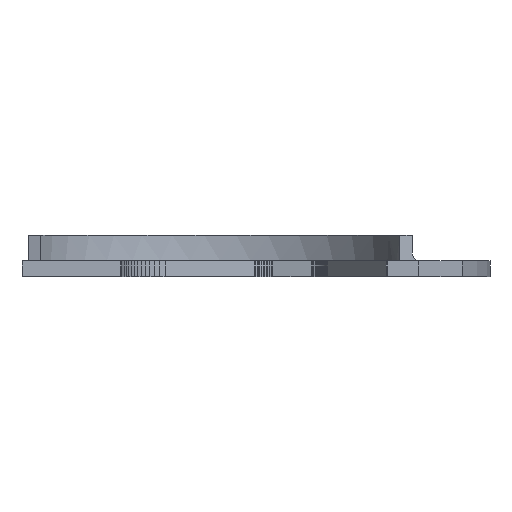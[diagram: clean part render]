
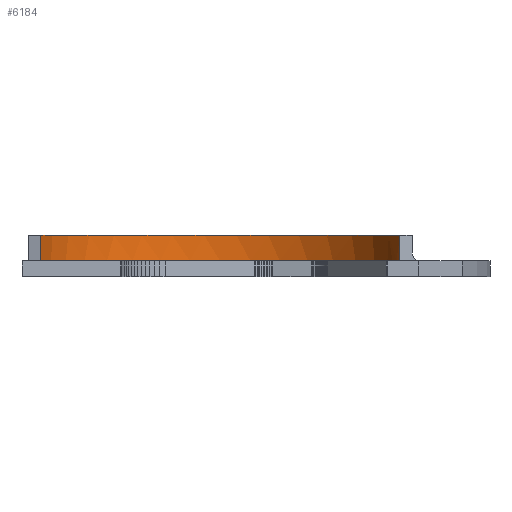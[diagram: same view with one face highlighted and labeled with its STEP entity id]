
A CAD part, front view. The second image highlights one B-rep face of the part: STEP entity #6184.
In plain terms, the highlighted cylindrical face has radius 23.5 mm (diameter 47 mm), a partial arc.
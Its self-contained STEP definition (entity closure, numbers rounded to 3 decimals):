
#32 = PLANE('',#33);
#33 = AXIS2_PLACEMENT_3D('',#34,#35,#36);
#34 = CARTESIAN_POINT('',(0.,0.,-46.2));
#35 = DIRECTION('',(0.,0.,1.));
#36 = DIRECTION('',(1.,0.,-0.));
#361 = VERTEX_POINT('',#362);
#362 = CARTESIAN_POINT('',(22.699,6.082,-46.2));
#376 = PLANE('',#377);
#377 = AXIS2_PLACEMENT_3D('',#378,#379,#380);
#378 = CARTESIAN_POINT('',(0.,0.,-47.4));
#379 = DIRECTION('',(-0.259,0.966,0.));
#380 = DIRECTION('',(0.966,0.259,0.));
#388 = EDGE_CURVE('',#361,#389,#391,.T.);
#389 = VERTEX_POINT('',#390);
#390 = CARTESIAN_POINT('',(21.122,10.302,-46.2));
#391 = SURFACE_CURVE('',#392,(#397,#404),.PCURVE_S1.);
#392 = CIRCLE('',#393,23.5);
#393 = AXIS2_PLACEMENT_3D('',#394,#395,#396);
#394 = CARTESIAN_POINT('',(0.,0.,-46.2));
#395 = DIRECTION('',(0.,0.,1.));
#396 = DIRECTION('',(1.,0.,-0.));
#397 = PCURVE('',#32,#398);
#398 = DEFINITIONAL_REPRESENTATION('',(#399),#403);
#399 = CIRCLE('',#400,23.5);
#400 = AXIS2_PLACEMENT_2D('',#401,#402);
#401 = CARTESIAN_POINT('',(0.,0.));
#402 = DIRECTION('',(1.,0.));
#403 = ( GEOMETRIC_REPRESENTATION_CONTEXT(2) 
PARAMETRIC_REPRESENTATION_CONTEXT() REPRESENTATION_CONTEXT('2D SPACE',''
  ) );
#404 = PCURVE('',#405,#410);
#405 = CYLINDRICAL_SURFACE('',#406,23.5);
#406 = AXIS2_PLACEMENT_3D('',#407,#408,#409);
#407 = CARTESIAN_POINT('',(0.,0.,-46.9));
#408 = DIRECTION('',(0.,0.,1.));
#409 = DIRECTION('',(1.,0.,0.));
#410 = DEFINITIONAL_REPRESENTATION('',(#411),#415);
#411 = LINE('',#412,#413);
#412 = CARTESIAN_POINT('',(0.,0.7));
#413 = VECTOR('',#414,1.);
#414 = DIRECTION('',(1.,0.));
#415 = ( GEOMETRIC_REPRESENTATION_CONTEXT(2) 
PARAMETRIC_REPRESENTATION_CONTEXT() REPRESENTATION_CONTEXT('2D SPACE',''
  ) );
#432 = PLANE('',#433);
#433 = AXIS2_PLACEMENT_3D('',#434,#435,#436);
#434 = CARTESIAN_POINT('',(0.,0.,-49.7));
#435 = DIRECTION('',(-0.438,0.899,0.));
#436 = DIRECTION('',(0.899,0.438,0.));
#473 = VERTEX_POINT('',#474);
#474 = CARTESIAN_POINT('',(19.482,13.141,-46.2));
#487 = PLANE('',#488);
#488 = AXIS2_PLACEMENT_3D('',#489,#490,#491);
#489 = CARTESIAN_POINT('',(20.005,13.494,-49.7));
#490 = DIRECTION('',(0.559,-0.829,0.));
#491 = DIRECTION('',(-0.829,-0.559,0.));
#498 = EDGE_CURVE('',#473,#499,#501,.T.);
#499 = VERTEX_POINT('',#500);
#500 = CARTESIAN_POINT('',(-22.699,6.082,-46.2));
#501 = SURFACE_CURVE('',#502,(#507,#514),.PCURVE_S1.);
#502 = CIRCLE('',#503,23.5);
#503 = AXIS2_PLACEMENT_3D('',#504,#505,#506);
#504 = CARTESIAN_POINT('',(0.,0.,-46.2));
#505 = DIRECTION('',(0.,0.,1.));
#506 = DIRECTION('',(1.,0.,-0.));
#507 = PCURVE('',#32,#508);
#508 = DEFINITIONAL_REPRESENTATION('',(#509),#513);
#509 = CIRCLE('',#510,23.5);
#510 = AXIS2_PLACEMENT_2D('',#511,#512);
#511 = CARTESIAN_POINT('',(0.,0.));
#512 = DIRECTION('',(1.,0.));
#513 = ( GEOMETRIC_REPRESENTATION_CONTEXT(2) 
PARAMETRIC_REPRESENTATION_CONTEXT() REPRESENTATION_CONTEXT('2D SPACE',''
  ) );
#514 = PCURVE('',#405,#515);
#515 = DEFINITIONAL_REPRESENTATION('',(#516),#520);
#516 = LINE('',#517,#518);
#517 = CARTESIAN_POINT('',(0.,0.7));
#518 = VECTOR('',#519,1.);
#519 = DIRECTION('',(1.,0.));
#520 = ( GEOMETRIC_REPRESENTATION_CONTEXT(2) 
PARAMETRIC_REPRESENTATION_CONTEXT() REPRESENTATION_CONTEXT('2D SPACE',''
  ) );
#537 = PLANE('',#538);
#538 = AXIS2_PLACEMENT_3D('',#539,#540,#541);
#539 = CARTESIAN_POINT('',(-24.943,6.683,-47.4));
#540 = DIRECTION('',(0.259,0.966,-0.));
#541 = DIRECTION('',(0.966,-0.259,0.));
#3937 = PLANE('',#3938);
#3938 = AXIS2_PLACEMENT_3D('',#3939,#3940,#3941);
#3939 = CARTESIAN_POINT('',(0.,0.,-46.4));
#3940 = DIRECTION('',(0.,0.,1.));
#3941 = DIRECTION('',(1.,0.,0.));
#3991 = EDGE_CURVE('',#3992,#3994,#3996,.T.);
#3992 = VERTEX_POINT('',#3993);
#3993 = CARTESIAN_POINT('',(21.122,10.302,-46.4));
#3994 = VERTEX_POINT('',#3995);
#3995 = CARTESIAN_POINT('',(19.482,13.141,-46.4));
#3996 = SURFACE_CURVE('',#3997,(#4002,#4009),.PCURVE_S1.);
#3997 = CIRCLE('',#3998,23.5);
#3998 = AXIS2_PLACEMENT_3D('',#3999,#4000,#4001);
#3999 = CARTESIAN_POINT('',(0.,0.,-46.4));
#4000 = DIRECTION('',(0.,0.,1.));
#4001 = DIRECTION('',(1.,0.,-0.));
#4002 = PCURVE('',#3937,#4003);
#4003 = DEFINITIONAL_REPRESENTATION('',(#4004),#4008);
#4004 = CIRCLE('',#4005,23.5);
#4005 = AXIS2_PLACEMENT_2D('',#4006,#4007);
#4006 = CARTESIAN_POINT('',(0.,0.));
#4007 = DIRECTION('',(1.,0.));
#4008 = ( GEOMETRIC_REPRESENTATION_CONTEXT(2) 
PARAMETRIC_REPRESENTATION_CONTEXT() REPRESENTATION_CONTEXT('2D SPACE',''
  ) );
#4009 = PCURVE('',#405,#4010);
#4010 = DEFINITIONAL_REPRESENTATION('',(#4011),#4015);
#4011 = LINE('',#4012,#4013);
#4012 = CARTESIAN_POINT('',(0.,0.5));
#4013 = VECTOR('',#4014,1.);
#4014 = DIRECTION('',(1.,0.));
#4015 = ( GEOMETRIC_REPRESENTATION_CONTEXT(2) 
PARAMETRIC_REPRESENTATION_CONTEXT() REPRESENTATION_CONTEXT('2D SPACE',''
  ) );
#5763 = PLANE('',#5764);
#5764 = AXIS2_PLACEMENT_3D('',#5765,#5766,#5767);
#5765 = CARTESIAN_POINT('',(0.,0.,-43.));
#5766 = DIRECTION('',(0.,0.,1.));
#5767 = DIRECTION('',(1.,0.,0.));
#5998 = VERTEX_POINT('',#5999);
#5999 = CARTESIAN_POINT('',(22.699,6.082,-43.));
#6021 = VERTEX_POINT('',#6022);
#6022 = CARTESIAN_POINT('',(-22.699,6.082,-43.));
#6041 = EDGE_CURVE('',#5998,#6021,#6042,.T.);
#6042 = SURFACE_CURVE('',#6043,(#6048,#6055),.PCURVE_S1.);
#6043 = CIRCLE('',#6044,23.5);
#6044 = AXIS2_PLACEMENT_3D('',#6045,#6046,#6047);
#6045 = CARTESIAN_POINT('',(0.,0.,-43.));
#6046 = DIRECTION('',(0.,0.,1.));
#6047 = DIRECTION('',(1.,0.,-0.));
#6048 = PCURVE('',#5763,#6049);
#6049 = DEFINITIONAL_REPRESENTATION('',(#6050),#6054);
#6050 = CIRCLE('',#6051,23.5);
#6051 = AXIS2_PLACEMENT_2D('',#6052,#6053);
#6052 = CARTESIAN_POINT('',(0.,0.));
#6053 = DIRECTION('',(1.,0.));
#6054 = ( GEOMETRIC_REPRESENTATION_CONTEXT(2) 
PARAMETRIC_REPRESENTATION_CONTEXT() REPRESENTATION_CONTEXT('2D SPACE',''
  ) );
#6055 = PCURVE('',#405,#6056);
#6056 = DEFINITIONAL_REPRESENTATION('',(#6057),#6061);
#6057 = LINE('',#6058,#6059);
#6058 = CARTESIAN_POINT('',(0.,3.9));
#6059 = VECTOR('',#6060,1.);
#6060 = DIRECTION('',(1.,0.));
#6061 = ( GEOMETRIC_REPRESENTATION_CONTEXT(2) 
PARAMETRIC_REPRESENTATION_CONTEXT() REPRESENTATION_CONTEXT('2D SPACE',''
  ) );
#6066 = EDGE_CURVE('',#499,#6021,#6067,.T.);
#6067 = SURFACE_CURVE('',#6068,(#6072,#6078),.PCURVE_S1.);
#6068 = LINE('',#6069,#6070);
#6069 = CARTESIAN_POINT('',(-22.699,6.082,-46.9));
#6070 = VECTOR('',#6071,1.);
#6071 = DIRECTION('',(0.,0.,1.));
#6072 = PCURVE('',#537,#6073);
#6073 = DEFINITIONAL_REPRESENTATION('',(#6074),#6077);
#6074 = B_SPLINE_CURVE_WITH_KNOTS('',1,(#6075,#6076),.UNSPECIFIED.,.F.,
  .F.,(2,2),(0.5,3.9),.PIECEWISE_BEZIER_KNOTS.);
#6075 = CARTESIAN_POINT('',(2.323,-1.));
#6076 = CARTESIAN_POINT('',(2.323,-4.4));
#6077 = ( GEOMETRIC_REPRESENTATION_CONTEXT(2) 
PARAMETRIC_REPRESENTATION_CONTEXT() REPRESENTATION_CONTEXT('2D SPACE',''
  ) );
#6078 = PCURVE('',#405,#6079);
#6079 = DEFINITIONAL_REPRESENTATION('',(#6080),#6083);
#6080 = B_SPLINE_CURVE_WITH_KNOTS('',1,(#6081,#6082),.UNSPECIFIED.,.F.,
  .F.,(2,2),(0.5,3.9),.PIECEWISE_BEZIER_KNOTS.);
#6081 = CARTESIAN_POINT('',(2.88,0.5));
#6082 = CARTESIAN_POINT('',(2.88,3.9));
#6083 = ( GEOMETRIC_REPRESENTATION_CONTEXT(2) 
PARAMETRIC_REPRESENTATION_CONTEXT() REPRESENTATION_CONTEXT('2D SPACE',''
  ) );
#6113 = EDGE_CURVE('',#3994,#473,#6114,.T.);
#6114 = SURFACE_CURVE('',#6115,(#6119,#6125),.PCURVE_S1.);
#6115 = LINE('',#6116,#6117);
#6116 = CARTESIAN_POINT('',(19.482,13.141,-46.9));
#6117 = VECTOR('',#6118,1.);
#6118 = DIRECTION('',(0.,0.,1.));
#6119 = PCURVE('',#487,#6120);
#6120 = DEFINITIONAL_REPRESENTATION('',(#6121),#6124);
#6121 = B_SPLINE_CURVE_WITH_KNOTS('',1,(#6122,#6123),.UNSPECIFIED.,.F.,
  .F.,(2,2),(0.5,0.9),.PIECEWISE_BEZIER_KNOTS.);
#6122 = CARTESIAN_POINT('',(0.631,-3.3));
#6123 = CARTESIAN_POINT('',(0.631,-3.7));
#6124 = ( GEOMETRIC_REPRESENTATION_CONTEXT(2) 
PARAMETRIC_REPRESENTATION_CONTEXT() REPRESENTATION_CONTEXT('2D SPACE',''
  ) );
#6125 = PCURVE('',#405,#6126);
#6126 = DEFINITIONAL_REPRESENTATION('',(#6127),#6130);
#6127 = B_SPLINE_CURVE_WITH_KNOTS('',1,(#6128,#6129),.UNSPECIFIED.,.F.,
  .F.,(2,2),(0.5,0.9),.PIECEWISE_BEZIER_KNOTS.);
#6128 = CARTESIAN_POINT('',(0.593,0.5));
#6129 = CARTESIAN_POINT('',(0.593,0.9));
#6130 = ( GEOMETRIC_REPRESENTATION_CONTEXT(2) 
PARAMETRIC_REPRESENTATION_CONTEXT() REPRESENTATION_CONTEXT('2D SPACE',''
  ) );
#6165 = EDGE_CURVE('',#3992,#389,#6166,.T.);
#6166 = SURFACE_CURVE('',#6167,(#6171,#6177),.PCURVE_S1.);
#6167 = LINE('',#6168,#6169);
#6168 = CARTESIAN_POINT('',(21.122,10.302,-46.9));
#6169 = VECTOR('',#6170,1.);
#6170 = DIRECTION('',(0.,0.,1.));
#6171 = PCURVE('',#432,#6172);
#6172 = DEFINITIONAL_REPRESENTATION('',(#6173),#6176);
#6173 = B_SPLINE_CURVE_WITH_KNOTS('',1,(#6174,#6175),.UNSPECIFIED.,.F.,
  .F.,(2,2),(0.5,0.9),.PIECEWISE_BEZIER_KNOTS.);
#6174 = CARTESIAN_POINT('',(23.5,-3.3));
#6175 = CARTESIAN_POINT('',(23.5,-3.7));
#6176 = ( GEOMETRIC_REPRESENTATION_CONTEXT(2) 
PARAMETRIC_REPRESENTATION_CONTEXT() REPRESENTATION_CONTEXT('2D SPACE',''
  ) );
#6177 = PCURVE('',#405,#6178);
#6178 = DEFINITIONAL_REPRESENTATION('',(#6179),#6182);
#6179 = B_SPLINE_CURVE_WITH_KNOTS('',1,(#6180,#6181),.UNSPECIFIED.,.F.,
  .F.,(2,2),(0.5,0.9),.PIECEWISE_BEZIER_KNOTS.);
#6180 = CARTESIAN_POINT('',(0.454,0.5));
#6181 = CARTESIAN_POINT('',(0.454,0.9));
#6182 = ( GEOMETRIC_REPRESENTATION_CONTEXT(2) 
PARAMETRIC_REPRESENTATION_CONTEXT() REPRESENTATION_CONTEXT('2D SPACE',''
  ) );
#6184 = ADVANCED_FACE('',(#6185),#405,.F.);
#6185 = FACE_BOUND('',#6186,.F.);
#6186 = EDGE_LOOP('',(#6187,#6188,#6208,#6209,#6210,#6211,#6212,#6213));
#6187 = ORIENTED_EDGE('',*,*,#6041,.F.);
#6188 = ORIENTED_EDGE('',*,*,#6189,.F.);
#6189 = EDGE_CURVE('',#361,#5998,#6190,.T.);
#6190 = SURFACE_CURVE('',#6191,(#6195,#6201),.PCURVE_S1.);
#6191 = LINE('',#6192,#6193);
#6192 = CARTESIAN_POINT('',(22.699,6.082,-46.9));
#6193 = VECTOR('',#6194,1.);
#6194 = DIRECTION('',(0.,0.,1.));
#6195 = PCURVE('',#405,#6196);
#6196 = DEFINITIONAL_REPRESENTATION('',(#6197),#6200);
#6197 = B_SPLINE_CURVE_WITH_KNOTS('',1,(#6198,#6199),.UNSPECIFIED.,.F.,
  .F.,(2,2),(0.5,3.9),.PIECEWISE_BEZIER_KNOTS.);
#6198 = CARTESIAN_POINT('',(0.262,0.5));
#6199 = CARTESIAN_POINT('',(0.262,3.9));
#6200 = ( GEOMETRIC_REPRESENTATION_CONTEXT(2) 
PARAMETRIC_REPRESENTATION_CONTEXT() REPRESENTATION_CONTEXT('2D SPACE',''
  ) );
#6201 = PCURVE('',#376,#6202);
#6202 = DEFINITIONAL_REPRESENTATION('',(#6203),#6207);
#6203 = LINE('',#6204,#6205);
#6204 = CARTESIAN_POINT('',(23.5,-0.5));
#6205 = VECTOR('',#6206,1.);
#6206 = DIRECTION('',(0.,-1.));
#6207 = ( GEOMETRIC_REPRESENTATION_CONTEXT(2) 
PARAMETRIC_REPRESENTATION_CONTEXT() REPRESENTATION_CONTEXT('2D SPACE',''
  ) );
#6208 = ORIENTED_EDGE('',*,*,#388,.T.);
#6209 = ORIENTED_EDGE('',*,*,#6165,.F.);
#6210 = ORIENTED_EDGE('',*,*,#3991,.T.);
#6211 = ORIENTED_EDGE('',*,*,#6113,.T.);
#6212 = ORIENTED_EDGE('',*,*,#498,.T.);
#6213 = ORIENTED_EDGE('',*,*,#6066,.T.);
